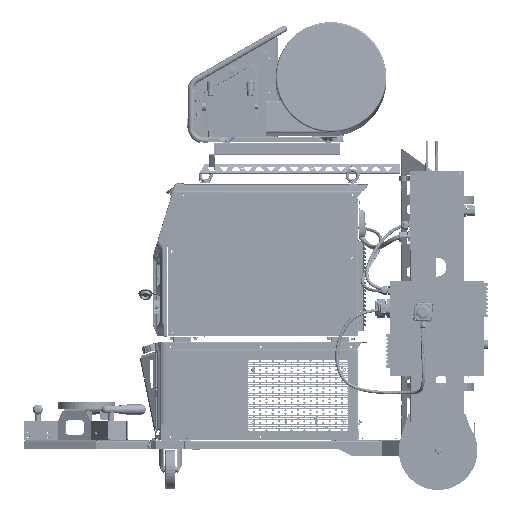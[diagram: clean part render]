
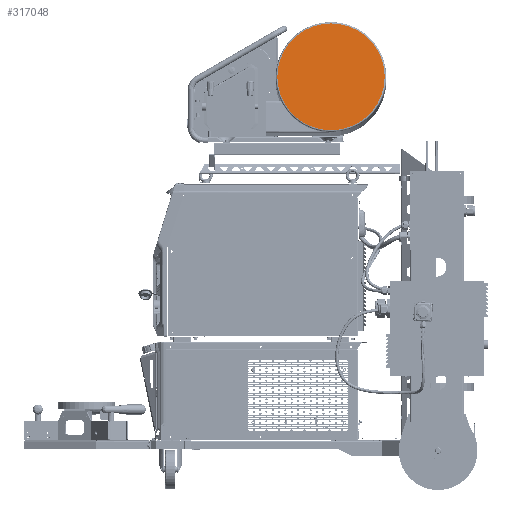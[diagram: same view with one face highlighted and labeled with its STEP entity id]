
A CAD part, left-side view. The second image highlights one B-rep face of the part: STEP entity #317048.
In plain terms, the highlighted planar face has unit normal (-0.995, 0, 0.104).
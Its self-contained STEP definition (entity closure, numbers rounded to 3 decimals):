
#10128 = AXIS2_PLACEMENT_3D ( 'NONE', #124798, #293988, #127676 ) ;
#13313 = CARTESIAN_POINT ( 'NONE',  ( 721.569, 869.892, 1790.774 ) ) ;
#19073 = AXIS2_PLACEMENT_3D ( 'NONE', #53605, #23231, #356063 ) ;
#23231 = DIRECTION ( 'NONE',  ( -0.995, 0., 0.105 ) ) ;
#53605 = CARTESIAN_POINT ( 'NONE',  ( 703.799, 869.892, 1621.705 ) ) ;
#93431 = ORIENTED_EDGE ( 'NONE', *, *, #406344, .T. ) ;
#114328 = VERTEX_POINT ( 'NONE', #13313 ) ;
#124798 = CARTESIAN_POINT ( 'NONE',  ( 703.799, 869.892, 1621.705 ) ) ;
#127676 = DIRECTION ( 'NONE',  ( 0.105, 0., 0.995 ) ) ;
#134725 = AXIS2_PLACEMENT_3D ( 'NONE', #353591, #249613, #155490 ) ;
#141558 = CARTESIAN_POINT ( 'NONE',  ( 686.03, 869.892, 1452.636 ) ) ;
#155490 = DIRECTION ( 'NONE',  ( 0.105, 0., 0.995 ) ) ;
#171137 = EDGE_CURVE ( 'NONE', #114328, #299835, #264434, .T. ) ;
#172955 = EDGE_LOOP ( 'NONE', ( #381695, #93431 ) ) ;
#185517 = PLANE ( 'NONE',  #19073 ) ;
#211834 = CIRCLE ( 'NONE', #10128, 170. ) ;
#249613 = DIRECTION ( 'NONE',  ( -0.995, 0., 0.105 ) ) ;
#264434 = CIRCLE ( 'NONE', #134725, 170. ) ;
#293988 = DIRECTION ( 'NONE',  ( -0.995, 0., 0.105 ) ) ;
#299835 = VERTEX_POINT ( 'NONE', #141558 ) ;
#317048 = ADVANCED_FACE ( 'NONE', ( #339511 ), #185517, .T. ) ;
#339511 = FACE_OUTER_BOUND ( 'NONE', #172955, .T. ) ;
#353591 = CARTESIAN_POINT ( 'NONE',  ( 703.799, 869.892, 1621.705 ) ) ;
#356063 = DIRECTION ( 'NONE',  ( 0.105, 0., 0.995 ) ) ;
#381695 = ORIENTED_EDGE ( 'NONE', *, *, #171137, .T. ) ;
#406344 = EDGE_CURVE ( 'NONE', #299835, #114328, #211834, .T. ) ;
